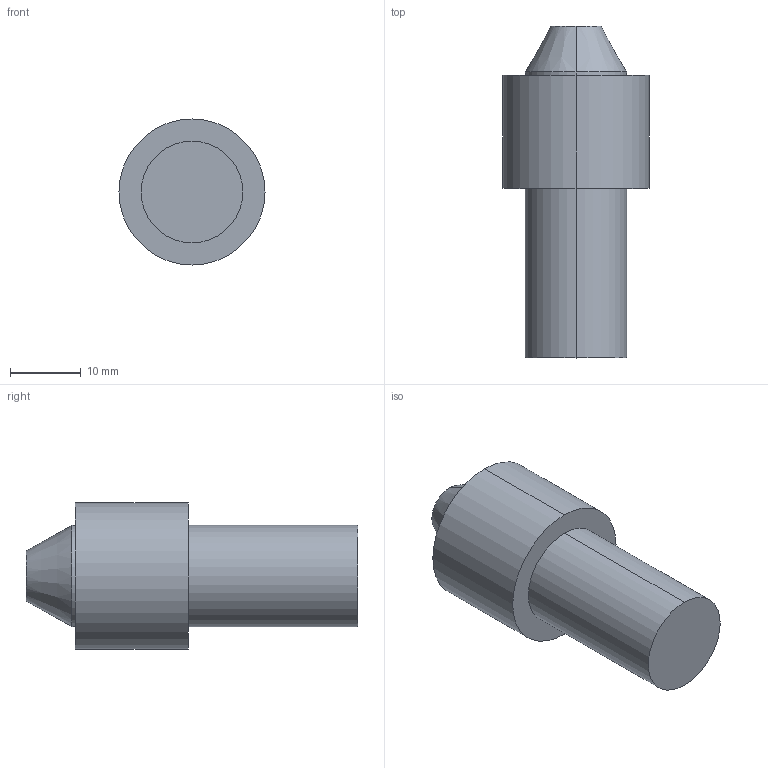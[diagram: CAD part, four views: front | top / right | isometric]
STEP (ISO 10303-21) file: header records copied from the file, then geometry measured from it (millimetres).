
FILE_DESCRIPTION (( 'STEP AP203' ), '1' );
FILE_NAME ('FA60PS09.STEP', '2020-11-27T07:00:05', ( '' ), ( '' ), 'SwSTEP 2.0', 'SolidWorks 2018', '' );
FILE_SCHEMA (( 'CONFIG_CONTROL_DESIGN' ));
Length unit declared in the file: millimetre
Products named in the file (1): FA60PS09
Bounding box: 20.7 x 47 x 20.7 mm (x, y, z)
Volume: 9980.5 mm3; surface area: 2950.5 mm2
Topology: 1 solids, 1 shells, 12 faces, 22 edges, 14 vertices
Faces by surface type: cylinder 6, plane 4, cone 2
Entity records: 381 total; most frequent: DIRECTION 62, CARTESIAN_POINT 49, ORIENTED_EDGE 44, AXIS2_PLACEMENT_3D 27, EDGE_CURVE 22, VERTEX_POINT 14, EDGE_LOOP 14, CIRCLE 14
